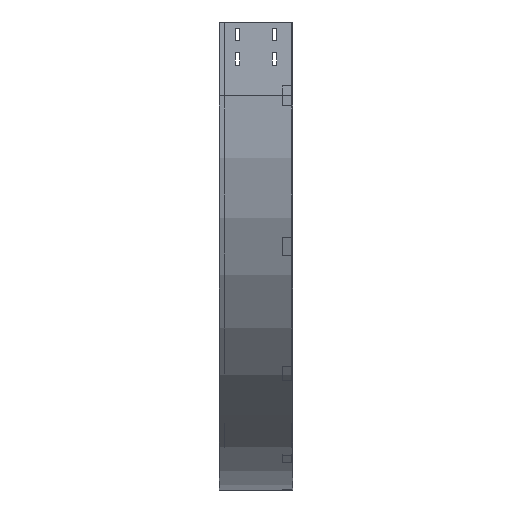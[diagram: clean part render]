
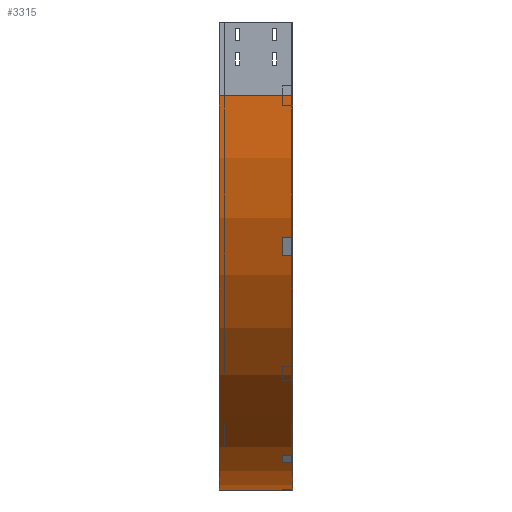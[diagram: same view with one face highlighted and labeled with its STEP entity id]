
A CAD part, left-side view. The second image highlights one B-rep face of the part: STEP entity #3315.
In plain terms, the highlighted cylindrical face has radius 800 mm (diameter 1600 mm), a partial arc.
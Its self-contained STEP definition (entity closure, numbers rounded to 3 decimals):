
#70 = DIRECTION ( 'NONE',  ( 0., -1., 0. ) ) ;
#132 = EDGE_CURVE ( 'NONE', #2064, #3137, #291, .T. ) ;
#158 = AXIS2_PLACEMENT_3D ( 'NONE', #1913, #3417, #1025 ) ;
#234 = CIRCLE ( 'NONE', #3598, 800. ) ;
#291 = CIRCLE ( 'NONE', #158, 800. ) ;
#342 = ORIENTED_EDGE ( 'NONE', *, *, #752, .F. ) ;
#364 = CARTESIAN_POINT ( 'NONE',  ( 800., 0., -950. ) ) ;
#418 = DIRECTION ( 'NONE',  ( -1., 0., 0. ) ) ;
#522 = CYLINDRICAL_SURFACE ( 'NONE', #2972, 800. ) ;
#542 = LINE ( 'NONE', #2597, #1869 ) ;
#752 = EDGE_CURVE ( 'NONE', #1751, #2064, #542, .T. ) ;
#799 = ORIENTED_EDGE ( 'NONE', *, *, #3857, .T. ) ;
#1025 = DIRECTION ( 'NONE',  ( -1., 0., 0. ) ) ;
#1236 = ORIENTED_EDGE ( 'NONE', *, *, #132, .F. ) ;
#1306 = CARTESIAN_POINT ( 'NONE',  ( 800., 150., -150. ) ) ;
#1673 = CARTESIAN_POINT ( 'NONE',  ( 800., 0., -150. ) ) ;
#1711 = FACE_OUTER_BOUND ( 'NONE', #2817, .T. ) ;
#1749 = VECTOR ( 'NONE', #70, 1000. ) ;
#1751 = VERTEX_POINT ( 'NONE', #3441 ) ;
#1776 = VERTEX_POINT ( 'NONE', #2250 ) ;
#1777 = CARTESIAN_POINT ( 'NONE',  ( 800., 0., -950. ) ) ;
#1857 = LINE ( 'NONE', #364, #1749 ) ;
#1869 = VECTOR ( 'NONE', #2007, 1000. ) ;
#1913 = CARTESIAN_POINT ( 'NONE',  ( 800., 0., -150. ) ) ;
#2007 = DIRECTION ( 'NONE',  ( 0., -1., 0. ) ) ;
#2064 = VERTEX_POINT ( 'NONE', #2743 ) ;
#2250 = CARTESIAN_POINT ( 'NONE',  ( 800., 150., -950. ) ) ;
#2582 = DIRECTION ( 'NONE',  ( 0., -1., 0. ) ) ;
#2597 = CARTESIAN_POINT ( 'NONE',  ( 0., 0., -150. ) ) ;
#2659 = ORIENTED_EDGE ( 'NONE', *, *, #2916, .T. ) ;
#2743 = CARTESIAN_POINT ( 'NONE',  ( 0., 0., -150. ) ) ;
#2817 = EDGE_LOOP ( 'NONE', ( #1236, #342, #2659, #799 ) ) ;
#2916 = EDGE_CURVE ( 'NONE', #1751, #1776, #234, .T. ) ;
#2972 = AXIS2_PLACEMENT_3D ( 'NONE', #1673, #2582, #3762 ) ;
#3053 = DIRECTION ( 'NONE',  ( 0., -1., 0. ) ) ;
#3137 = VERTEX_POINT ( 'NONE', #1777 ) ;
#3315 = ADVANCED_FACE ( 'NONE', ( #1711 ), #522, .T. ) ;
#3417 = DIRECTION ( 'NONE',  ( 0., -1., 0. ) ) ;
#3441 = CARTESIAN_POINT ( 'NONE',  ( 0., 150., -150. ) ) ;
#3598 = AXIS2_PLACEMENT_3D ( 'NONE', #1306, #3053, #418 ) ;
#3762 = DIRECTION ( 'NONE',  ( 0., 0., -1. ) ) ;
#3857 = EDGE_CURVE ( 'NONE', #1776, #3137, #1857, .T. ) ;
